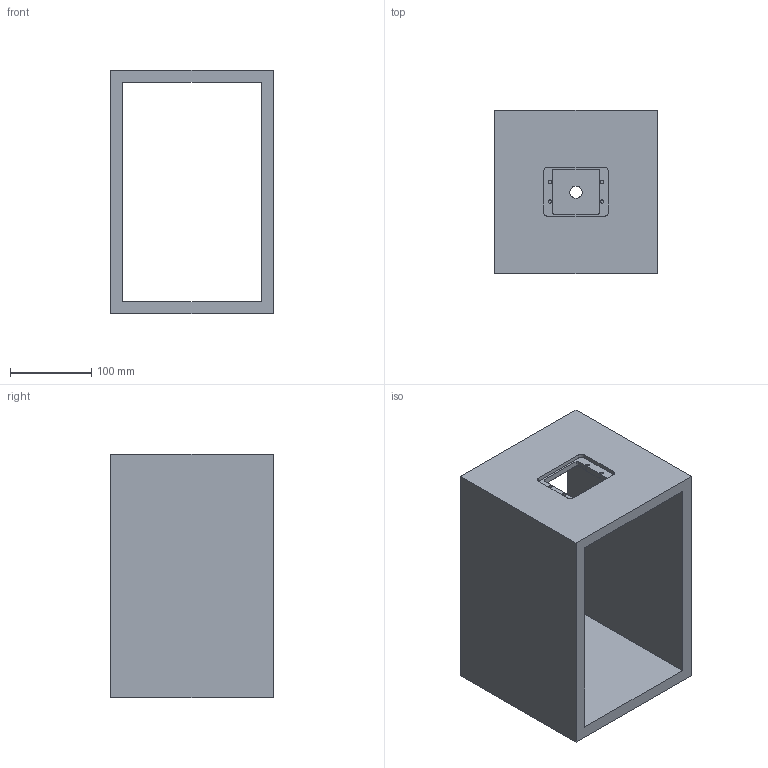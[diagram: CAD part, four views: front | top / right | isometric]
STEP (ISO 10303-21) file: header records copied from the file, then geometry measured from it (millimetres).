
FILE_DESCRIPTION (( 'STEP AP203' ), '1' );
FILE_NAME ('Separator_box.step', '2026-06-05T03:32:59', ( '' ), ( '' ), 'SwSTEP 2.0', 'SolidWorks 2024', '' );
FILE_SCHEMA (( 'CONFIG_CONTROL_DESIGN' ));
Length unit declared in the file: millimetre
Products named in the file (1): Separator_box
Bounding box: 200 x 200 x 300 mm (x, y, z)
Volume: 2756328.2 mm3; surface area: 402283.5 mm2
Topology: 1 solids, 1 shells, 56 faces, 156 edges, 104 vertices
Faces by surface type: cylinder 28, plane 28
Entity records: 1921 total; most frequent: DIRECTION 326, CARTESIAN_POINT 317, ORIENTED_EDGE 312, EDGE_CURVE 156, AXIS2_PLACEMENT_3D 113, VERTEX_POINT 104, LINE 100, VECTOR 100
